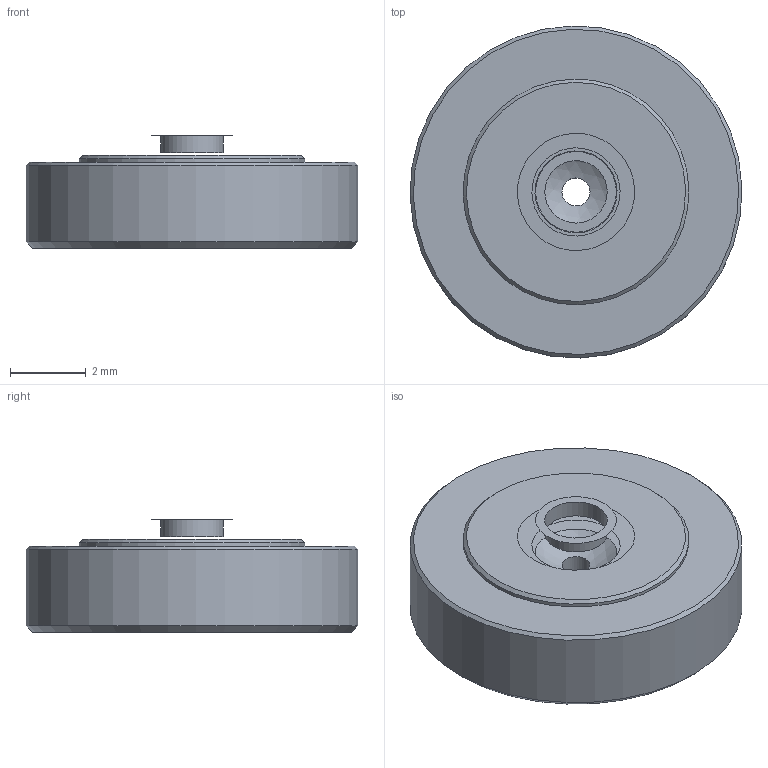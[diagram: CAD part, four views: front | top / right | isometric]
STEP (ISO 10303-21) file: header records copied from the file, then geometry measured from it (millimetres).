
FILE_DESCRIPTION(/* description */ (''),/* implementation_level */ '2;1');
FILE_NAME(/* name */ 'D:\Desktop\WatchCAdFiles\print2endTime\3.5\Solid31.stp',/* time_stamp */ '2019-05-02T16:58:10+02:00',/* author */ ('fkhad'),/* organization */ (''),/* preprocessor_version */ 'ST-DEVELOPER v17',/* originating_system */ 'Autodesk Inventor 2018',/* authorisation */ '');
FILE_SCHEMA (('AUTOMOTIVE_DESIGN { 1 0 10303 214 3 1 1 }'));
Length unit declared in the file: inch
Products named in the file (1): Solid31
Bounding box: 8.75 x 8.75 x 2.98 mm (x, y, z)
Volume: 110.4 mm3; surface area: 292.4 mm2
Topology: 2 solids, 2 shells, 50 faces, 153 edges, 109 vertices
Faces by surface type: cylinder 22, plane 18, cone 7, sphere 3
Full cylindrical faces by diameter (mm): 0.738 x2, 1.645 x1, 3.146 x1, 3.98 x1, 5.636 x1, 5.95 x1, 6.884 x1, 8.75 x1
Entity records: 1966 total; most frequent: CARTESIAN_POINT 367, DIRECTION 340, ORIENTED_EDGE 306, EDGE_CURVE 153, AXIS2_PLACEMENT_3D 143, VERTEX_POINT 109, CIRCLE 92, EDGE_LOOP 62
